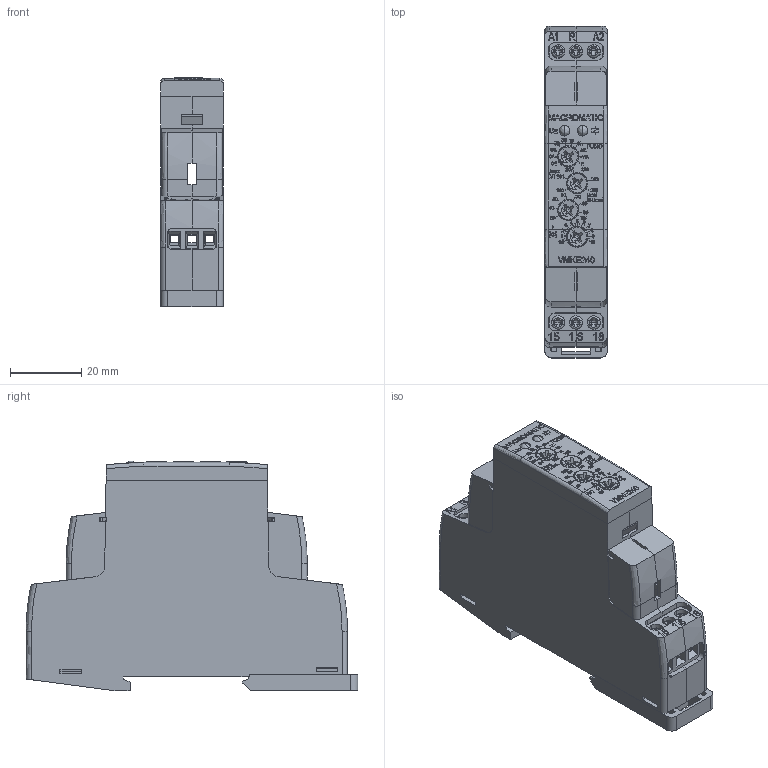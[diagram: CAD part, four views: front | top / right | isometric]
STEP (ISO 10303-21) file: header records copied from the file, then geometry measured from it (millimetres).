
FILE_DESCRIPTION(('FreeCAD Model'),'2;1');
FILE_NAME('Open CASCADE Shape Model','2025-03-12T21:03:51',('Author'),( ''),'Open CASCADE STEP processor 7.6','FreeCAD','Unknown');
FILE_SCHEMA(('AUTOMOTIVE_DESIGN { 1 0 10303 214 1 1 1 1 }'));
Length unit declared in the file: millimetre
Products named in the file (212): Document; COMPOUND016; COMPOUND; COMPOUND001; COMPOUND002; COMPOUND003; COMPOUND004; COMPOUND005; COMPOUND006; COMPOUND007; COMPOUND008; COMPOUND009; COMPOUND010; COMPOUND011; COMPOUND012; COMPOUND013; COMPOUND014; COMPOUND015; COMPOUND210; COMPOUND017; COMPOUND018; COMPOUND019; COMPOUND020; COMPOUND021; COMPOUND022; COMPOUND023; COMPOUND024; COMPOUND025; COMPOUND026; COMPOUND027; COMPOUND028; COMPOUND029; COMPOUND030; COMPOUND031; COMPOUND032; COMPOUND033; COMPOUND034; COMPOUND035; COMPOUND036; COMPOUND037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
Assembly tree (211 placements, depth 3):
  Document
    COMPOUND016
      COMPOUND
      COMPOUND001
      COMPOUND002
      COMPOUND003
      COMPOUND004
      COMPOUND005
      COMPOUND006
      COMPOUND007
      COMPOUND008
      COMPOUND009
      COMPOUND010
      COMPOUND011
      COMPOUND012
      COMPOUND013
      COMPOUND014
      COMPOUND015
    COMPOUND210
      COMPOUND017
      COMPOUND018
      COMPOUND019
      COMPOUND020
      COMPOUND021
      COMPOUND022
      COMPOUND023
      COMPOUND024
      COMPOUND025
      COMPOUND026
      COMPOUND027
      COMPOUND028
      COMPOUND029
      COMPOUND030
      COMPOUND031
      COMPOUND032
      COMPOUND033
      COMPOUND034
      COMPOUND035
      COMPOUND036
      COMPOUND037
      COMPOUND038
      COMPOUND039
      COMPOUND040
      COMPOUND041
      COMPOUND042
      COMPOUND043
      COMPOUND044
      COMPOUND045
      COMPOUND046
      COMPOUND047
      COMPOUND048
      COMPOUND049
      COMPOUND050
      COMPOUND051
      COMPOUND052
      COMPOUND053
      COMPOUND054
      COMPOUND055
      COMPOUND056
      COMPOUND057
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Bounding box: 17.6 x 92.95 x 64.4 mm (x, y, z)
Volume: 19876.1 mm3; surface area: 36471.1 mm2
Topology: 16 solids, 209 shells, 1771 faces, 6208 edges, 4609 vertices
Faces by surface type: plane 1056, bspline 715
Entity records: 93633 total; most frequent: CARTESIAN_POINT 51013, ORIENTED_EDGE 10632, EDGE_CURVE 6184, B_SPLINE_CURVE_WITH_KNOTS 5186, VERTEX_POINT 4609, DIRECTION 2536, FACE_BOUND 1885, EDGE_LOOP 1885
